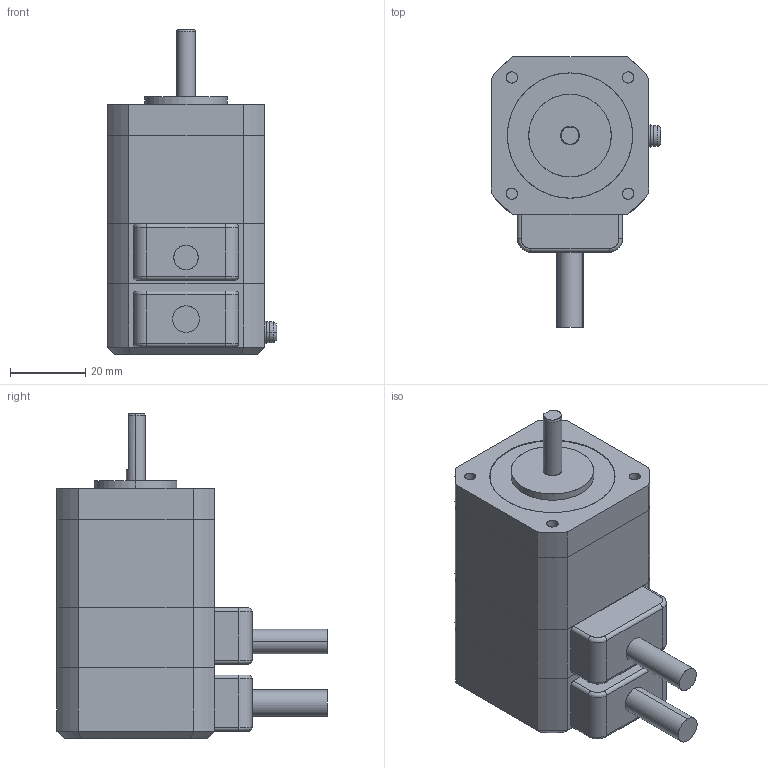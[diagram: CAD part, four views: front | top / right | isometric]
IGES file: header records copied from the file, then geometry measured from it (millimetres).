
Start section: SolidWorks IGES file using analytic representation for surfaces
Global section: file name: C:\Users\7666\Desktop\PMSC-B42D3E_3D\PMSC-B42D3E.IGS; native system: SolidWorks 2018; preprocessor: SolidWorks 2018; author: 7666; date: 220414.084849; units: millimetre
Bounding box: 45.2 x 72 x 86.8 mm (x, y, z)
Surface area: 29583 mm2 (no closed solid volume)
Topology: 0 solids, 0 shells, 133 faces, 1488 edges, 1488 vertices
Faces by surface type: bspline 70, revolution 63
